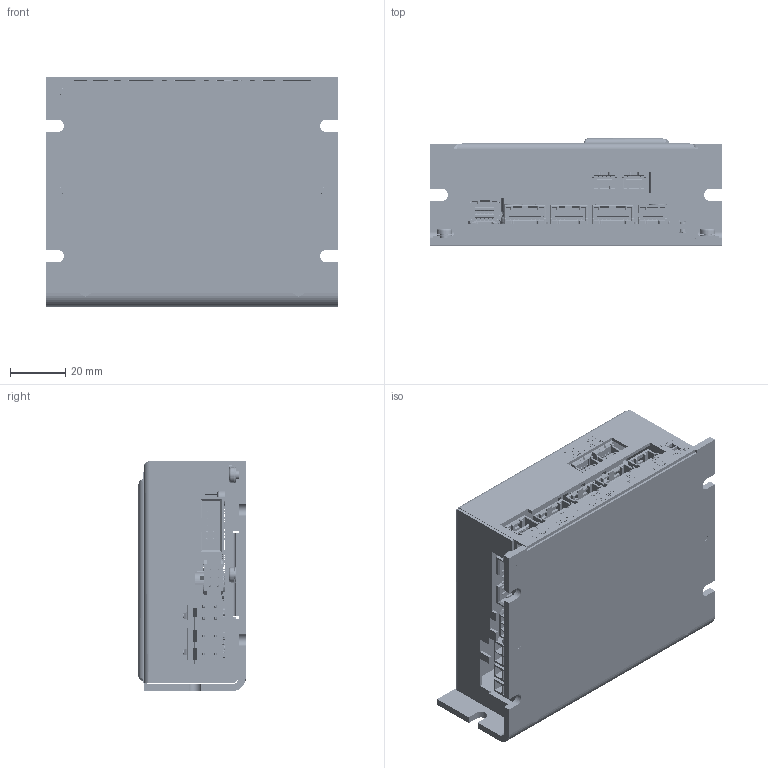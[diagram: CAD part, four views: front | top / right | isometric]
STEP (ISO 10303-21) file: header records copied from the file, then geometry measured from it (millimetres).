
FILE_DESCRIPTION((''),'2;1');
FILE_NAME('EPOS4_50-5_ZUSAMMENBAU_V01_ASM','2018-05-30T',('mmagrari'),(''),'CREO PARAMETRIC BY PTC INC, 2017020','CREO PARAMETRIC BY PTC INC, 2017020','');
FILE_SCHEMA(('CONFIG_CONTROL_DESIGN'));
Products named in the file (50): EPOS4_50-5_PCB; EPOS4_50-5_GRUNDPLATTE; PEM-SO-3_5M3X6_A2A; EPOS4_50-5_BODEN_KOMPL_ASM; MOLEX-39-30-1020; MOLEX-43045-0600; MOLEX-39-30-1040; 3M-N2510-5002-RB; 36P-C; M-RJHSE-5381-02-REVT1; 5031750800; 5031750700; 5031750500; 5031481090; EPOS4_50-5_CAN-PCB; 5031750400; ZW_03_09_G_S_472_110BBODY; ZW_03_09_G_S_472_110_PINS; ZW0309GS472110; DW_03_09_F_S_472_ASM; ABSTANDHUELSE_6-5_3-2_L19; M3X25; EPOS4_50-5_CAN-PCB_ASM_ASM; PCBCONNE_01-87-003-10-001101; CHP_08_G_LOWER_BODY; CHP_KNOBLOWER; CHP_081TB_ASM; USB-MICRO; CHOKE_12-10MM; CAP_D12-5X25-5; LED_SIDE_BASE; LED_SIDE_GREEN; LED_SIDE_3-1_GREEN_ASM; EPOS4_50-5_PCB_ASM_ASM; M3X8; EPOS4_50-5_DECKEL; M3X4; 585133; SILKSCREEN_EP50-5_T_BASE; SILKSCREEN_EP50-5_T_TOP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
Assembly tree (72 placements, depth 5):
  EPOS4_50-5_ZUSAMMENBAU_V01_ASM
    EPOS4_50-5_PCB
    EPOS4_50-5_BODEN_KOMPL_ASM
      EPOS4_50-5_GRUNDPLATTE
      PEM-SO-3_5M3X6_A2A  x4
    EPOS4_50-5_PCB_ASM_ASM
      EPOS4_50-5_PCB
      MOLEX-39-30-1020  x2
      MOLEX-43045-0600
      MOLEX-39-30-1040
      3M-N2510-5002-RB
      36P-C  x2
      M-RJHSE-5381-02-REVT1
      5031750800  x2
      5031750700
      5031750500
      5031481090  x2
      EPOS4_50-5_CAN-PCB_ASM_ASM
        EPOS4_50-5_CAN-PCB
        5031750400  x2
        DW_03_09_F_S_472_ASM
          ZW_03_09_G_S_472_110BBODY
          ZW_03_09_G_S_472_110_PINS
          ZW0309GS472110
        ABSTANDHUELSE_6-5_3-2_L19
        M3X25
      PCBCONNE_01-87-003-10-001101
      CHP_081TB_ASM
        CHP_08_G_LOWER_BODY
        CHP_KNOBLOWER  x8
      USB-MICRO
      CHOKE_12-10MM  x3
      CAP_D12-5X25-5
      LED_SIDE_3-1_GREEN_ASM  x2
        LED_SIDE_BASE
        LED_SIDE_GREEN
    M3X8  x3
    EPOS4_50-5_DECKEL
    M3X4  x3
    585133
    SILKSCREEN_EP50-5_TOP_ASM
      SILKSCREEN_EP50-5_T_BASE
      SILKSCREEN_EP50-5_T_TOP
      SILKSCREEN_ESD-LOGO
      USB-LOGO-STEHEND-2_5-5
      SILKSCREEN_EP450-5_LOGO
      SILKSCREEN_MAXON_LOGO_33X3
      ROTE4
    SILKSCREEN_EP50-5_FRONT_ASM
      SILKSCREEN_EP50-5_F_BASE
      SILKSCREEN_EP50-5_F_TOP
Bounding box: 105 x 38.7 x 83.2 mm (x, y, z)
Volume: 84791.7 mm3; surface area: 140412.1 mm2
Topology: 150 solids, 167 shells, 14141 faces, 39803 edges, 26290 vertices
Faces by surface type: plane 8357, extrusion 3043, cylinder 2454, cone 158, torus 58, bspline 54, sphere 17
Entity records: 478084 total; most frequent: CARTESIAN_POINT 99047, ORIENTED_EDGE 64160, DIRECTION 48973, EDGE_CURVE 32095, PRESENTATION_STYLE_ASSIGNMENT 26371, STYLED_ITEM 25566, VECTOR 25301, CURVE_STYLE 24478
